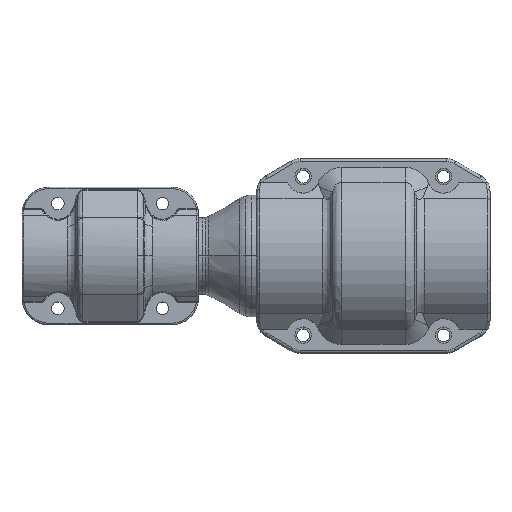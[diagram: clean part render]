
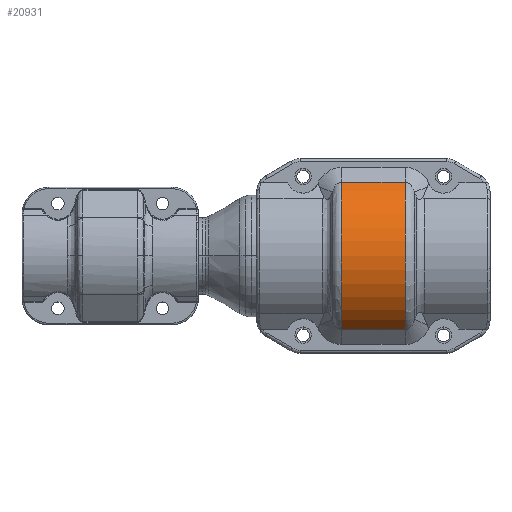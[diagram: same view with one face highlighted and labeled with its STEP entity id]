
A CAD part, top view. The second image highlights one B-rep face of the part: STEP entity #20931.
In plain terms, the highlighted cylindrical face has radius 29.95 mm (diameter 59.9 mm), a partial arc.
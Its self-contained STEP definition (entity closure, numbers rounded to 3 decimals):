
#18454=CARTESIAN_POINT('',(-10.692,24.633,
17.035));
#18476=DIRECTION('',(-1.,0.,0.));
#18477=VECTOR('',#18476,21.384);
#18478=CARTESIAN_POINT('',(10.692,24.633,17.035));
#18479=LINE('',#18478,#18477);
#18483=DIRECTION('',(1.,0.,0.));
#18484=VECTOR('',#18483,21.384);
#18485=CARTESIAN_POINT('',(-10.692,-24.633,
17.035));
#18486=LINE('',#18485,#18484);
#18498=CARTESIAN_POINT('',(-10.692,0.,0.));
#18499=DIRECTION('',(-1.,0.,0.));
#18500=DIRECTION('',(0.,0.,1.));
#18501=AXIS2_PLACEMENT_3D('',#18498,#18499,#18500);
#18506=CARTESIAN_POINT('',(-10.692,0.,0.));
#18507=DIRECTION('',(-1.,0.,0.));
#18508=DIRECTION('',(0.,-0.822,0.569));
#18509=AXIS2_PLACEMENT_3D('',#18506,#18507,#18508);
#18711=CARTESIAN_POINT('',(10.692,-24.633,
17.035));
#18726=CARTESIAN_POINT('',(10.692,0.,0.));
#18727=DIRECTION('',(1.,0.,0.));
#18728=DIRECTION('',(0.,0.822,0.569));
#18729=AXIS2_PLACEMENT_3D('',#18726,#18727,#18728);
#18750=CARTESIAN_POINT('',(10.692,0.,0.));
#18751=DIRECTION('',(1.,0.,0.));
#18752=DIRECTION('',(0.,0.,1.));
#18753=AXIS2_PLACEMENT_3D('',#18750,#18751,#18752);
#19875=CARTESIAN_POINT('',(10.692,24.633,17.035));
#19876=VERTEX_POINT('',#19875);
#19885=VERTEX_POINT('',#18454);
#19893=VERTEX_POINT('',#18711);
#19899=CARTESIAN_POINT('',(-10.692,-24.633,
17.035));
#19900=VERTEX_POINT('',#19899);
#19997=CARTESIAN_POINT('',(-10.692,0.,29.95));
#19998=VERTEX_POINT('',#19997);
#19999=CARTESIAN_POINT('',(10.692,0.,29.95));
#20000=VERTEX_POINT('',#19999);
#20913=CARTESIAN_POINT('',(39.,0.,0.));
#20914=DIRECTION('',(-1.,0.,0.));
#20915=DIRECTION('',(0.,0.,1.));
#20916=AXIS2_PLACEMENT_3D('',#20913,#20914,#20915);
#20917=CYLINDRICAL_SURFACE('',#20916,29.95);
#20919=ORIENTED_EDGE('',*,*,#20918,.T.);
#20920=ORIENTED_EDGE('',*,*,#20908,.F.);
#20922=ORIENTED_EDGE('',*,*,#20921,.T.);
#20924=ORIENTED_EDGE('',*,*,#20923,.T.);
#20926=ORIENTED_EDGE('',*,*,#20925,.F.);
#20928=ORIENTED_EDGE('',*,*,#20927,.T.);
#20929=EDGE_LOOP('',(#20919,#20920,#20922,#20924,#20926,#20928));
#20930=FACE_OUTER_BOUND('',#20929,.F.);
#18502=CIRCLE('',#18501,29.95);
#18510=CIRCLE('',#18509,29.95);
#18730=CIRCLE('',#18729,29.95);
#18754=CIRCLE('',#18753,29.95);
#20908=EDGE_CURVE('',#19876,#19885,#18479,.T.);
#20918=EDGE_CURVE('',#19998,#19885,#18502,.T.);
#20921=EDGE_CURVE('',#19876,#20000,#18730,.T.);
#20923=EDGE_CURVE('',#20000,#19893,#18754,.T.);
#20925=EDGE_CURVE('',#19900,#19893,#18486,.T.);
#20927=EDGE_CURVE('',#19900,#19998,#18510,.T.);
#20931=ADVANCED_FACE('',(#20930),#20917,.T.);
